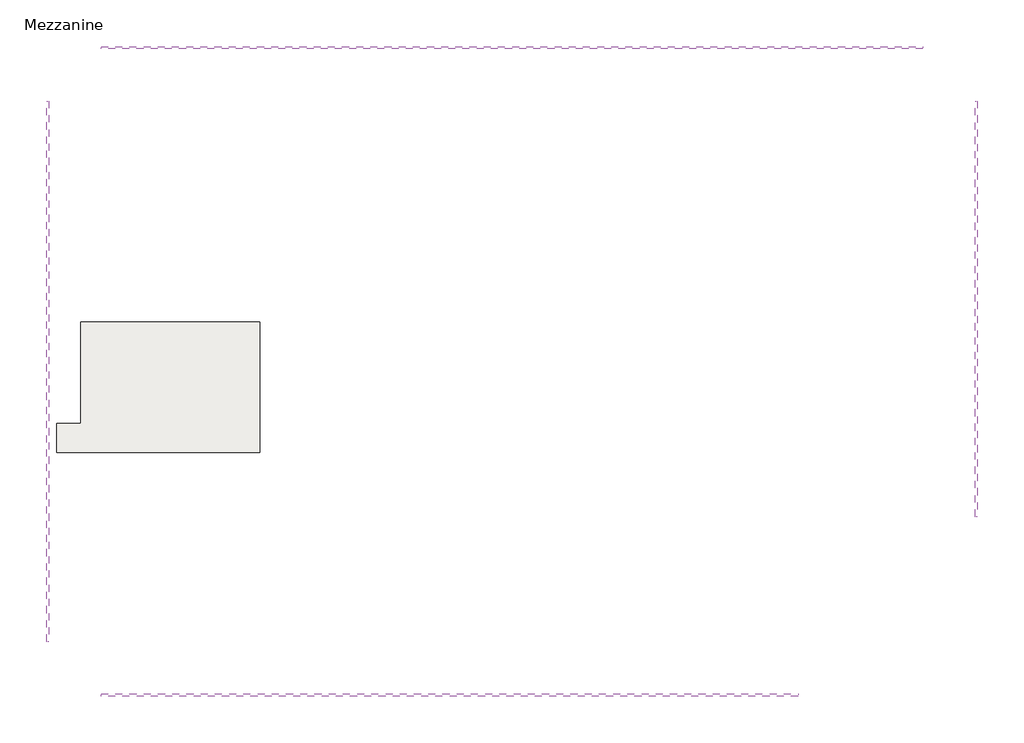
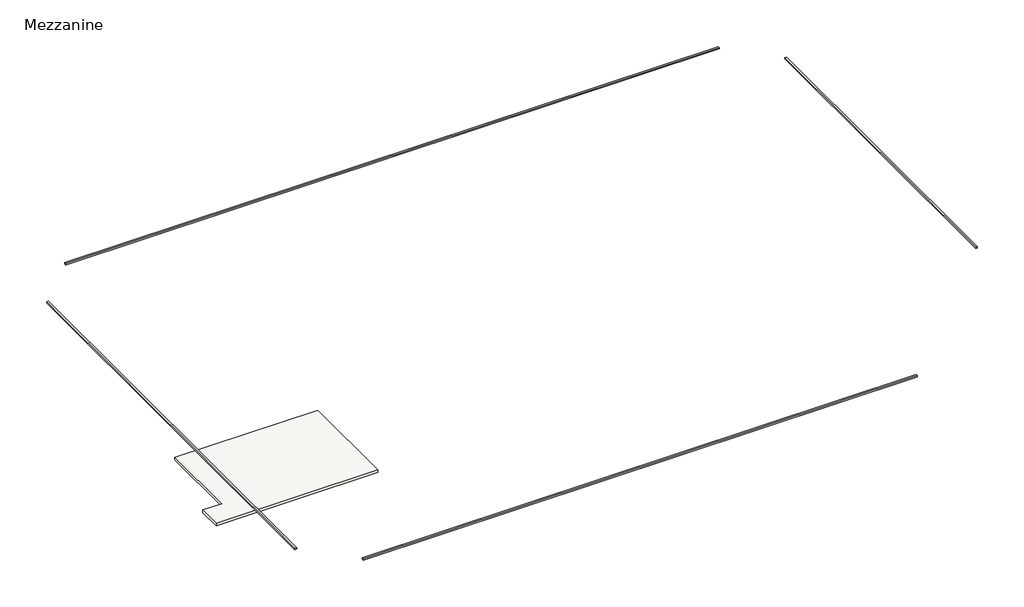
# One storey: 4 proxies, 1 slab.
"""IFC4 building model written with IfcOpenShell, lengths in millimetres."""

from ifc_helpers import new_model, si_unit, frame, origin, place, context, project, spatial, polyline, outline, extrude, element, save

model = new_model("IFC4")

# Units and contexts
model_context = context("Model", 3, world=origin())
ifc_project = project(units=[si_unit("LENGTHUNIT", "METRE", prefix="MILLI")], contexts=[model_context])

# Site, building, storey
site = spatial("IfcSite", under=ifc_project)
building = spatial("IfcBuilding", under=site)
storey = spatial("IfcBuildingStorey", under=building, Name="Mezzanine", Elevation=3500.0)

# Proxies
placement = place(None, origin())
element("IfcBuildingElementProxy", 1, Name="Reveals", at=placement, inside=storey, context=model_context, shape_type="SweptSolid", body=[
    extrude(outline(polyline([(10855.5272279, -14331.9313057), (10855.5272279, -14434.4313057), (-20031.4727721, -14434.4313057), (-20031.4727721, -14331.9313057), (10855.5272279, -14331.9313057)])), frame((0.0, 0.0, 7200.0), z_axis=(0.0, 0.0, 1.0), x_axis=(1.0, 0.0, 0.0)), (0.0, 0.0, 1.0), 75.0),
])
element("IfcBuildingElementProxy", 2, Name="Reveals", at=placement, inside=storey, context=model_context, shape_type="SweptSolid", body=[
    extrude(outline(polyline([(-22344.4727721, -12018.7313057), (-22446.9727721, -12018.7313057), (-22446.9727721, 11955.0686943), (-22344.4727721, 11955.0686943), (-22344.4727721, -12018.7313057)])), frame((0.0, 0.0, 7200.0), z_axis=(0.0, 0.0, 1.0), x_axis=(1.0, 0.0, 0.0)), (0.0, 0.0, 1.0), 75.0),
])
element("IfcBuildingElementProxy", 3, Name="Reveals", at=placement, inside=storey, context=model_context, shape_type="SweptSolid", body=[
    extrude(outline(polyline([(-20031.4727721, 14268.0686943), (-20031.4727721, 14370.5686943), (16392.5272279, 14370.5686943), (16392.5272279, 14268.0686943), (-20031.4727721, 14268.0686943)])), frame((0.0, 0.0, 7200.0), z_axis=(0.0, 0.0, 1.0), x_axis=(1.0, 0.0, 0.0)), (0.0, 0.0, 1.0), 75.0),
])
element("IfcBuildingElementProxy", 4, Name="Reveals", at=placement, inside=storey, context=model_context, shape_type="SweptSolid", body=[
    extrude(outline(polyline([(18705.5272279, 11955.0686943), (18808.0272279, 11955.0686943), (18808.0272279, -6481.9313057), (18705.5272279, -6481.9313057), (18705.5272279, 11955.0686943)])), frame((0.0, 0.0, 7200.0), z_axis=(0.0, 0.0, 1.0), x_axis=(1.0, 0.0, 0.0)), (0.0, 0.0, 1.0), 75.0),
])

# Slab
element("IfcSlab", 5, ObjectType="Generic 150mm", at=placement, inside=storey, context=model_context, shape_type="SweptSolid", body=[
    extrude(outline(polyline([(-21990.4727721, -3637.6813057), (-21990.4727721, -2337.6813057), (-20940.4727721, -2337.6813057), (-20940.4727721, 2162.3520298), (-12988.7227721, 2162.3520298), (-12988.7227721, -3637.6813057), (-21990.4727721, -3637.6813057)])), frame((0.0, 0.0, 3350.0), z_axis=(0.0, 0.0, 1.0), x_axis=(1.0, 0.0, 0.0)), (0.0, 0.0, 1.0), 150.0),
])

save(model, "model.ifc")
